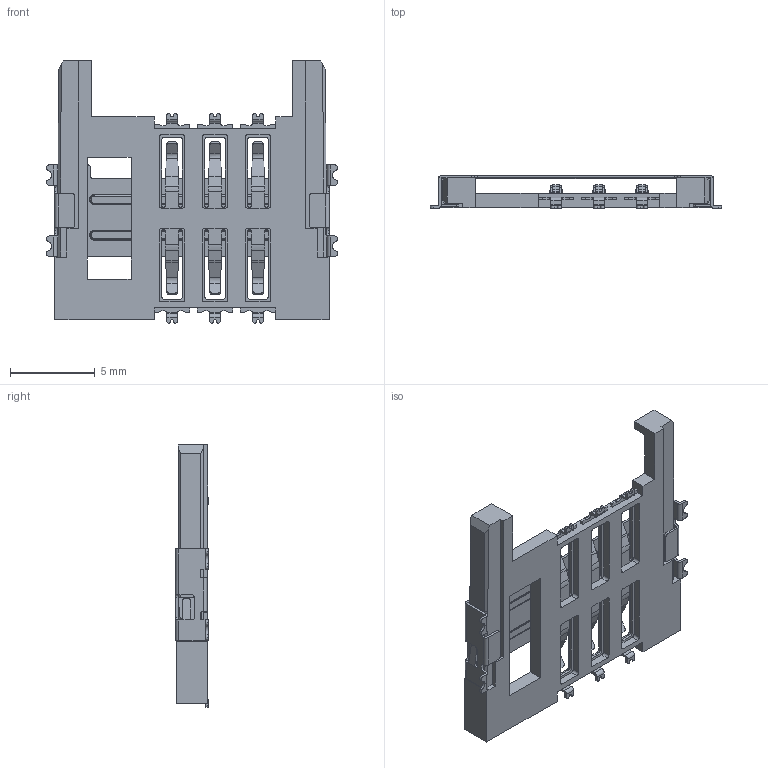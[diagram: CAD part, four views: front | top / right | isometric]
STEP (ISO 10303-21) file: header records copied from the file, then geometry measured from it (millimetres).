
FILE_DESCRIPTION((''),'2;1');
FILE_NAME('SIM-CARD_1050606AR010','2018-09-07T',('Administrator'),(''),'PRO/ENGINEER BY PARAMETRIC TECHNOLOGY CORPORATION, 2010280','PRO/ENGINEER BY PARAMETRIC TECHNOLOGY CORPORATION, 2010280','');
FILE_SCHEMA(('CONFIG_CONTROL_DESIGN'));
Length unit declared in the file: millimetre
Products named in the file (1): SIM-CARD_1050606AR010
Bounding box: 17.2 x 1.95 x 15.5 mm (x, y, z)
Volume: 139.7 mm3; surface area: 750.3 mm2
Topology: 1 solids, 1 shells, 700 faces, 2016 edges, 1328 vertices
Faces by surface type: plane 376, cylinder 308, torus 16
Entity records: 23202 total; most frequent: CARTESIAN_POINT 4500, ORIENTED_EDGE 4032, DIRECTION 3824, EDGE_CURVE 2016, VERTEX_POINT 1328, VECTOR 1320, LINE 1320, AXIS2_PLACEMENT_3D 1252
